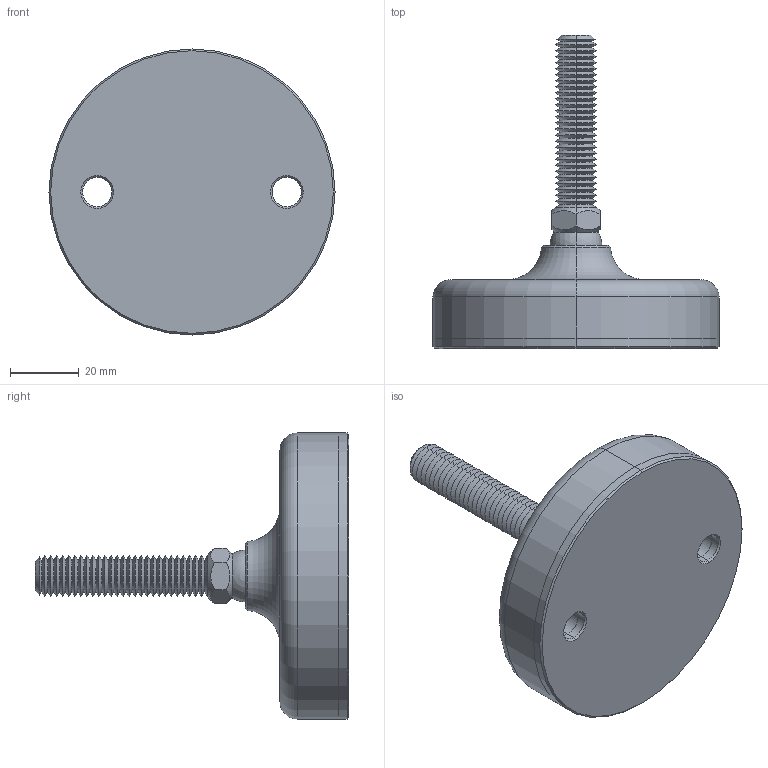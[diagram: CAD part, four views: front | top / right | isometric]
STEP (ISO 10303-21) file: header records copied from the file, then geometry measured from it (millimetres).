
FILE_DESCRIPTION (( 'STEP AP203' ), '1' );
FILE_NAME ('34724.W1200.step', '2019-11-28T22:08:22', ( '' ), ( '' ), 'SwSTEP 2.0', 'SolidWorks 2017', '' );
FILE_SCHEMA (( 'CONFIG_CONTROL_DESIGN' ));
Length unit declared in the file: millimetre
Products named in the file (4): Part2_34724.W1200; Part3_34724.W1200; Part1_34724.W1200; 34724.W1200
Assembly tree (3 placements, depth 2):
  34724.W1200
    Part1_34724.W1200
    Part2_34724.W1200
    Part3_34724.W1200
Bounding box: 83 x 91 x 83 mm (x, y, z)
Volume: 115416.7 mm3; surface area: 31594.5 mm2
Topology: 3 solids, 3 shells, 164 faces, 343 edges, 185 vertices
Faces by surface type: cone 130, plane 14, cylinder 12, sphere 4, torus 4
Entity records: 4758 total; most frequent: DIRECTION 836, CARTESIAN_POINT 828, ORIENTED_EDGE 668, AXIS2_PLACEMENT_3D 344, EDGE_CURVE 334, VERTEX_POINT 180, EDGE_LOOP 176, CIRCLE 174
